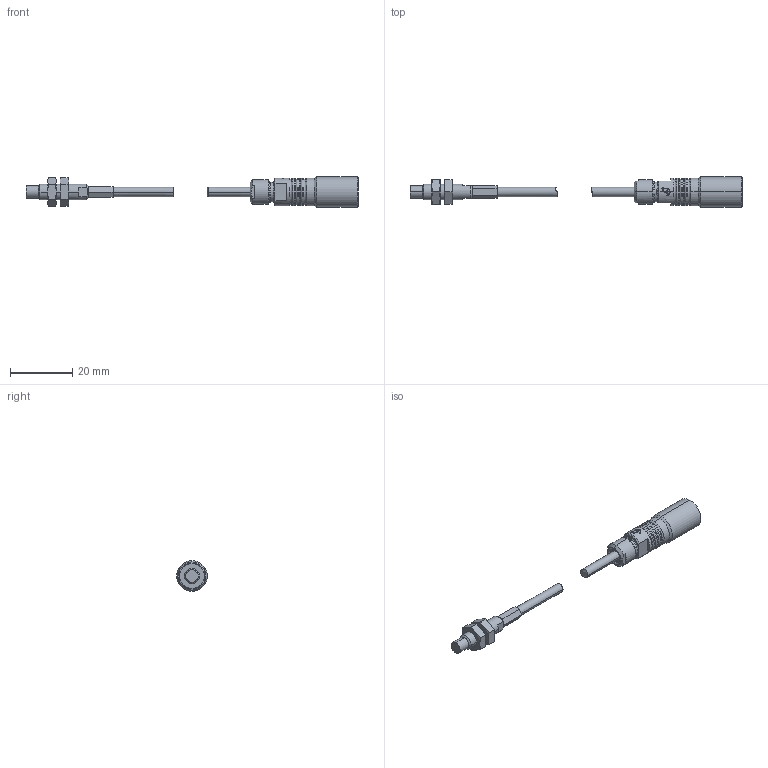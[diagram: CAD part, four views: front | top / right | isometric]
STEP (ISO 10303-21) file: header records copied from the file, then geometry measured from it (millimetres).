
FILE_DESCRIPTION((''),'2;1');
FILE_NAME('0000121974_ASM','2017-02-17T',('11000065'),(''),'CREO PARAMETRIC BY PTC INC, 2016260','CREO PARAMETRIC BY PTC INC, 2016260','');
FILE_SCHEMA(('AUTOMOTIVE_DESIGN { 1 0 10303 214 1 1 1 1 }'));
Length unit declared in the file: millimetre
Products named in the file (4): 0000121973; 0000040845; 0000044465; 0000121974_ASM
Assembly tree (4 placements, depth 2):
  0000121974_ASM
    0000121973
    0000040845  x2
    0000044465
Bounding box: 106.8 x 9.9 x 9.9 mm (x, y, z)
Volume: 2388.7 mm3; surface area: 4498.9 mm2
Topology: 6 solids, 68 shells, 817 faces, 1787 edges, 1120 vertices
Faces by surface type: plane 406, cylinder 224, cone 151, torus 34, extrusion 2
Entity records: 32472 total; most frequent: CARTESIAN_POINT 4718, DIRECTION 3769, ORIENTED_EDGE 3446, PRESENTATION_STYLE_ASSIGNMENT 2154, STYLED_ITEM 1728, CURVE_STYLE 1723, EDGE_CURVE 1723, AXIS2_PLACEMENT_3D 1447
